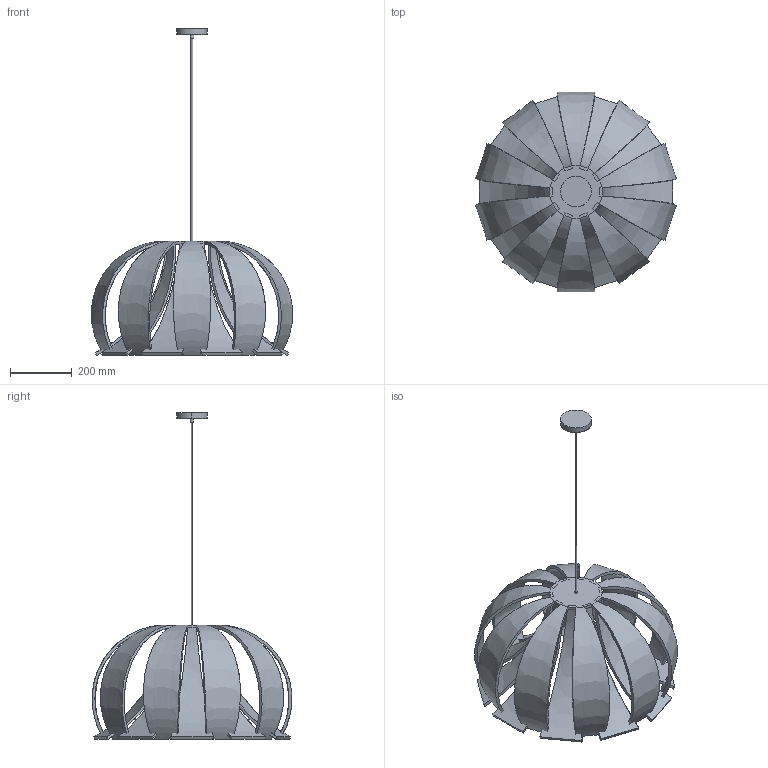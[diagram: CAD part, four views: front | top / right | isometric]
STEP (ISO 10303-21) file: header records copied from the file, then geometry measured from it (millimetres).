
FILE_DESCRIPTION(/* description */ (''),/* implementation_level */ '2;1');
FILE_NAME(/* name */ 'Blooom STEP',/* time_stamp */ '2025-05-07T10:52:13+02:00',/* author */ (''),/* organization */ (''),/* preprocessor_version */ 'ST-DEVELOPER v16.5',/* originating_system */ 'Rhino 7.38',/* authorisation */ '');
FILE_SCHEMA (('CONFIG_CONTROL_DESIGN'));
Length unit declared in the file: millimetre
Products named in the file (1): Document
Bounding box: 653.71 x 649.05 x 1061.43 mm (x, y, z)
Volume: 8275038.4 mm3; surface area: 2050325 mm2
Topology: 26 solids, 26 shells, 213 faces, 476 edges, 316 vertices
Faces by surface type: bspline 178, plane 27, cylinder 8
Entity records: 69637 total; most frequent: CARTESIAN_POINT 66497, ORIENTED_EDGE 952, EDGE_CURVE 476, B_SPLINE_CURVE_WITH_KNOTS 368, VERTEX_POINT 316, EDGE_LOOP 216, ADVANCED_FACE 213, FACE_OUTER_BOUND 213
